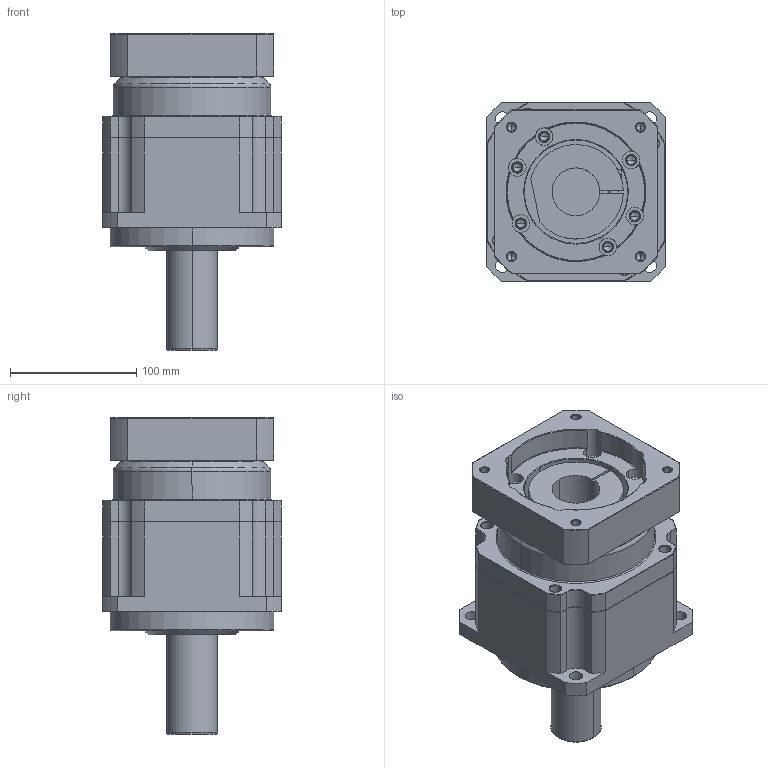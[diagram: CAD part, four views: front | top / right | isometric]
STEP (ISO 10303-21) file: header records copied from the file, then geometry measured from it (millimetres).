
FILE_DESCRIPTION((''),'2;1');
FILE_NAME('AB1421-P0403500101_ASM','2016-03-01T',('d00435'),(''),'PRO/ENGINEER BY PARAMETRIC TECHNOLOGY CORPORATION, 2008410','PRO/ENGINEER BY PARAMETRIC TECHNOLOGY CORPORATION, 2008410','');
FILE_SCHEMA(('CONFIG_CONTROL_DESIGN'));
Length unit declared in the file: millimetre
Products named in the file (4): AB1421; P1301500001; P0403500101; AB1421-P0403500101_ASM
Assembly tree (3 placements, depth 2):
  AB1421-P0403500101_ASM
    AB1421
    P1301500001
    P0403500101
Bounding box: 142 x 142 x 251 mm (x, y, z)
Volume: 2300511.3 mm3; surface area: 244280.7 mm2
Topology: 3 solids, 15 shells, 438 faces, 1055 edges, 639 vertices
Faces by surface type: cylinder 183, cone 106, plane 85, torus 64
Entity records: 13102 total; most frequent: CARTESIAN_POINT 2536, DIRECTION 2413, ORIENTED_EDGE 2016, EDGE_CURVE 1033, AXIS2_PLACEMENT_3D 1004, VERTEX_POINT 639, CIRCLE 553, EDGE_LOOP 512
